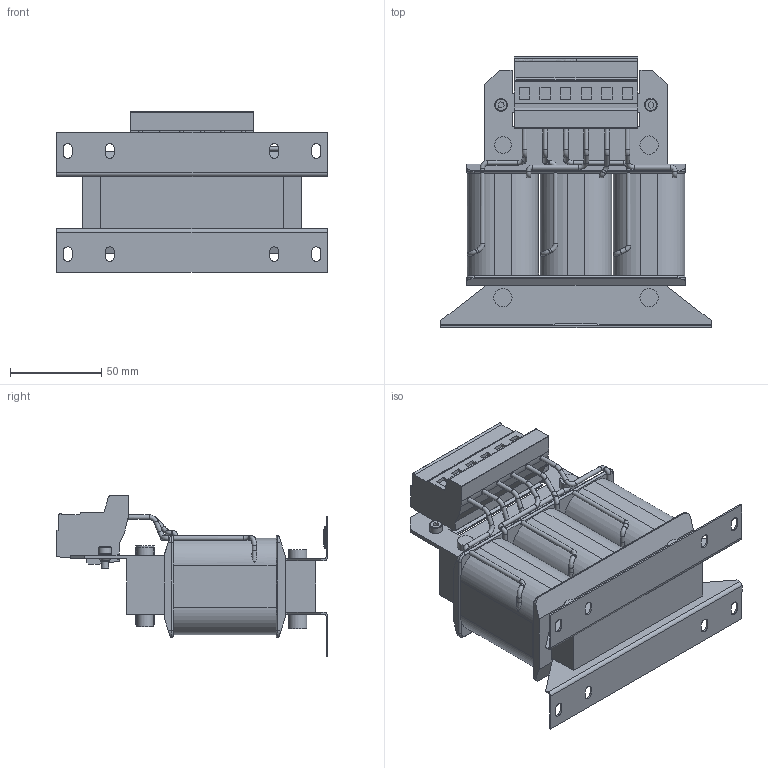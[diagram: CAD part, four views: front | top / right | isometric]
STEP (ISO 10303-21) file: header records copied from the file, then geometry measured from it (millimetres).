
FILE_DESCRIPTION (( 'STEP AP214' ), '1' );
FILE_NAME ('13Z1B03-1000.STEP', '2022-04-05T10:06:16', ( '' ), ( '' ), 'SwSTEP 2.0', 'SolidWorks 2019', '' );
FILE_SCHEMA (( 'AUTOMOTIVE_DESIGN' ));
Length unit declared in the file: millimetre
Products named in the file (1): 13Z1B03-1000
Bounding box: 148 x 148.75 x 87.95 mm (x, y, z)
Volume: 576890.9 mm3; surface area: 91990.3 mm2
Topology: 1 solids, 1 shells, 404 faces, 1073 edges, 694 vertices
Faces by surface type: plane 206, cylinder 122, torus 42, bspline 30, cone 4
Full cylindrical faces by diameter (mm): 2.5 x35, 4 x4, 4.78 x2, 7 x2, 9 x2, 10 x6
Entity records: 14505 total; most frequent: CARTESIAN_POINT 4873, ORIENTED_EDGE 1928, DIRECTION 1782, EDGE_CURVE 964, VERTEX_POINT 674, AXIS2_PLACEMENT_3D 614, EDGE_LOOP 556, VECTOR 554
